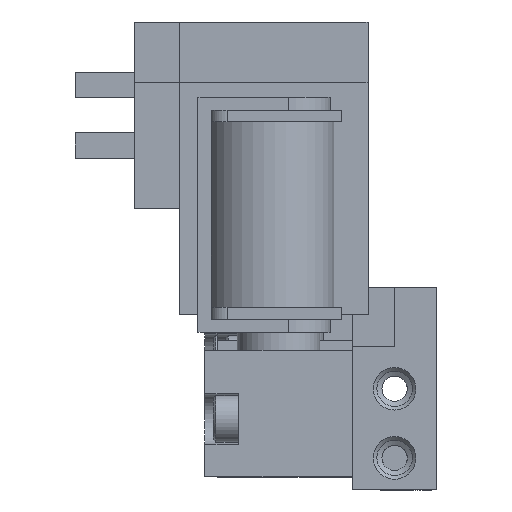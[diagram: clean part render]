
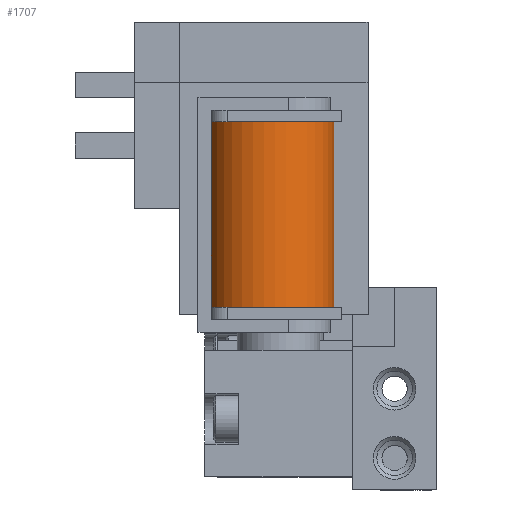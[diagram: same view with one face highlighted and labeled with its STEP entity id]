
A CAD part, left-side view. The second image highlights one B-rep face of the part: STEP entity #1707.
In plain terms, the highlighted cylindrical face has radius 7.65 mm (diameter 15.3 mm), a partial arc.
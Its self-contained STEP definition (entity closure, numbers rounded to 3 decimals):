
#329 = LINE ( 'NONE', #3569, #4315 ) ;
#387 = CIRCLE ( 'NONE', #1634, 7.65 ) ;
#396 = CARTESIAN_POINT ( 'NONE',  ( 0., 35.24, -9.8 ) ) ;
#482 = DIRECTION ( 'NONE',  ( 1., 0., 0. ) ) ;
#862 = DIRECTION ( 'NONE',  ( 1., 0., 0. ) ) ;
#1118 = ORIENTED_EDGE ( 'NONE', *, *, #7819, .F. ) ;
#1261 = CYLINDRICAL_SURFACE ( 'NONE', #5240, 7.65 ) ;
#1352 = DIRECTION ( 'NONE',  ( 0., -1., 0. ) ) ;
#1393 = CARTESIAN_POINT ( 'NONE',  ( -3.197, 13.24, -16.75 ) ) ;
#1549 = VERTEX_POINT ( 'NONE', #6344 ) ;
#1634 = AXIS2_PLACEMENT_3D ( 'NONE', #396, #2421, #482 ) ;
#1707 = ADVANCED_FACE ( 'NONE', ( #4670 ), #1261, .T. ) ;
#2040 = CARTESIAN_POINT ( 'NONE',  ( -3.197, 35.24, -16.75 ) ) ;
#2421 = DIRECTION ( 'NONE',  ( 0., 1., 0. ) ) ;
#2779 = EDGE_LOOP ( 'NONE', ( #3847, #6895, #1118, #3658 ) ) ;
#3255 = DIRECTION ( 'NONE',  ( 0., -1., 0. ) ) ;
#3485 = DIRECTION ( 'NONE',  ( 0., -1., 0. ) ) ;
#3496 = DIRECTION ( 'NONE',  ( 0., 1., 0. ) ) ;
#3569 = CARTESIAN_POINT ( 'NONE',  ( 3.197, 35.24, -16.75 ) ) ;
#3658 = ORIENTED_EDGE ( 'NONE', *, *, #5358, .T. ) ;
#3847 = ORIENTED_EDGE ( 'NONE', *, *, #4080, .T. ) ;
#4054 = VECTOR ( 'NONE', #3255, 1000. ) ;
#4080 = EDGE_CURVE ( 'NONE', #6577, #7975, #7721, .T. ) ;
#4315 = VECTOR ( 'NONE', #3485, 1000. ) ;
#4582 = EDGE_CURVE ( 'NONE', #7202, #7975, #329, .T. ) ;
#4670 = FACE_OUTER_BOUND ( 'NONE', #2779, .T. ) ;
#5240 = AXIS2_PLACEMENT_3D ( 'NONE', #7833, #1352, #7926 ) ;
#5358 = EDGE_CURVE ( 'NONE', #1549, #6577, #5904, .T. ) ;
#5904 = LINE ( 'NONE', #2040, #4054 ) ;
#6320 = CARTESIAN_POINT ( 'NONE',  ( 3.197, 35.24, -16.75 ) ) ;
#6344 = CARTESIAN_POINT ( 'NONE',  ( -3.197, 35.24, -16.75 ) ) ;
#6577 = VERTEX_POINT ( 'NONE', #1393 ) ;
#6895 = ORIENTED_EDGE ( 'NONE', *, *, #4582, .F. ) ;
#7202 = VERTEX_POINT ( 'NONE', #6320 ) ;
#7590 = AXIS2_PLACEMENT_3D ( 'NONE', #8167, #3496, #862 ) ;
#7698 = CARTESIAN_POINT ( 'NONE',  ( 3.197, 13.24, -16.75 ) ) ;
#7721 = CIRCLE ( 'NONE', #7590, 7.65 ) ;
#7819 = EDGE_CURVE ( 'NONE', #1549, #7202, #387, .T. ) ;
#7833 = CARTESIAN_POINT ( 'NONE',  ( 0., 35.24, -9.8 ) ) ;
#7926 = DIRECTION ( 'NONE',  ( 1., 0., 0. ) ) ;
#7975 = VERTEX_POINT ( 'NONE', #7698 ) ;
#8167 = CARTESIAN_POINT ( 'NONE',  ( 0., 13.24, -9.8 ) ) ;
